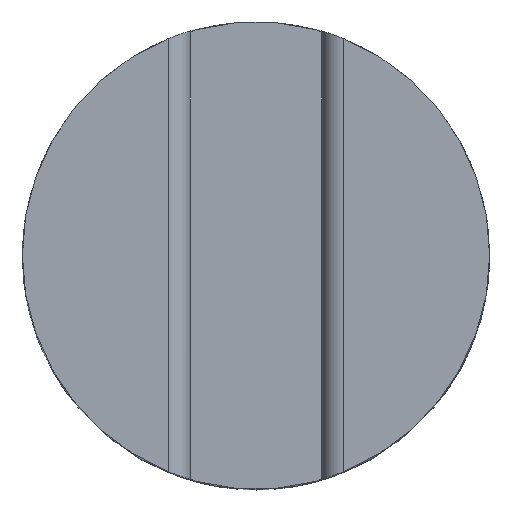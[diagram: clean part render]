
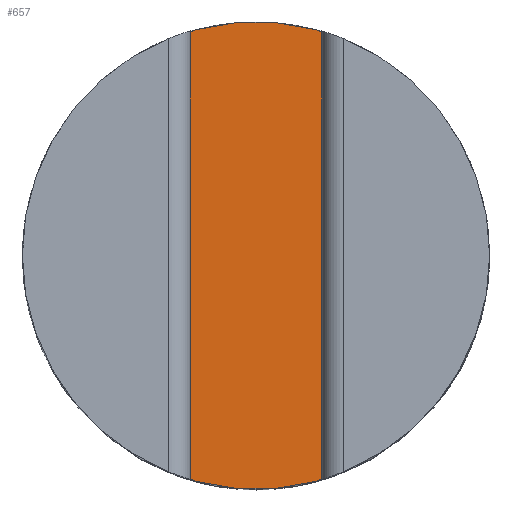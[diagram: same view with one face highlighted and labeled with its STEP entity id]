
A CAD part, top view. The second image highlights one B-rep face of the part: STEP entity #657.
In plain terms, the highlighted planar face has unit normal (0, 0, 1).
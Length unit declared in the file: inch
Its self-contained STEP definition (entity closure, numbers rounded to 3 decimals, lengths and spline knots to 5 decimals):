
#78 = CIRCLE ( 'NONE', #731, 0.1875 ) ;
#96 = AXIS2_PLACEMENT_3D ( 'NONE', #567, #958, #234 ) ;
#120 = EDGE_CURVE ( 'NONE', #795, #809, #183, .T. ) ;
#144 = VERTEX_POINT ( 'NONE', #1003 ) ;
#164 = CARTESIAN_POINT ( 'NONE',  ( -0.07819, 0.88004, -0.1877 ) ) ;
#166 = AXIS2_PLACEMENT_3D ( 'NONE', #947, #1014, #857 ) ;
#183 = CIRCLE ( 'NONE', #96, 0.1875 ) ;
#191 = ORIENTED_EDGE ( 'NONE', *, *, #841, .F. ) ;
#217 = ORIENTED_EDGE ( 'NONE', *, *, #120, .F. ) ;
#234 = DIRECTION ( 'NONE',  ( 1., 0., 0. ) ) ;
#251 = EDGE_CURVE ( 'NONE', #809, #144, #924, .T. ) ;
#258 = FACE_OUTER_BOUND ( 'NONE', #938, .T. ) ;
#261 = DIRECTION ( 'NONE',  ( 1., 0., 0. ) ) ;
#345 = ORIENTED_EDGE ( 'NONE', *, *, #251, .F. ) ;
#370 = VECTOR ( 'NONE', #389, 39.37008 ) ;
#376 = CARTESIAN_POINT ( 'NONE',  ( 0.07819, 0.17042, -0.1877 ) ) ;
#389 = DIRECTION ( 'NONE',  ( 0., -1., 0. ) ) ;
#408 = VERTEX_POINT ( 'NONE', #376 ) ;
#421 = VECTOR ( 'NONE', #989, 39.37008 ) ;
#500 = CARTESIAN_POINT ( 'NONE',  ( 0.07819, 0.88004, -0.1877 ) ) ;
#547 = ORIENTED_EDGE ( 'NONE', *, *, #786, .F. ) ;
#567 = CARTESIAN_POINT ( 'NONE',  ( 0., 0., -0.1877 ) ) ;
#581 = LINE ( 'NONE', #500, #370 ) ;
#598 = CARTESIAN_POINT ( 'NONE',  ( -0.07819, -0.17042, -0.1877 ) ) ;
#657 = ADVANCED_FACE ( 'NONE', ( #258 ), #930, .F. ) ;
#725 = CARTESIAN_POINT ( 'NONE',  ( 0.07819, -0.17042, -0.1877 ) ) ;
#731 = AXIS2_PLACEMENT_3D ( 'NONE', #758, #1009, #261 ) ;
#758 = CARTESIAN_POINT ( 'NONE',  ( 0., 0., -0.1877 ) ) ;
#786 = EDGE_CURVE ( 'NONE', #408, #795, #581, .T. ) ;
#795 = VERTEX_POINT ( 'NONE', #725 ) ;
#809 = VERTEX_POINT ( 'NONE', #598 ) ;
#841 = EDGE_CURVE ( 'NONE', #144, #408, #78, .T. ) ;
#857 = DIRECTION ( 'NONE',  ( -1., 0., 0. ) ) ;
#924 = LINE ( 'NONE', #164, #421 ) ;
#930 = PLANE ( 'NONE',  #166 ) ;
#938 = EDGE_LOOP ( 'NONE', ( #547, #191, #345, #217 ) ) ;
#947 = CARTESIAN_POINT ( 'NONE',  ( 0.67425, 0.88004, -0.1877 ) ) ;
#958 = DIRECTION ( 'NONE',  ( 0., 0., -1. ) ) ;
#989 = DIRECTION ( 'NONE',  ( 0., 1., 0. ) ) ;
#1003 = CARTESIAN_POINT ( 'NONE',  ( -0.07819, 0.17042, -0.1877 ) ) ;
#1009 = DIRECTION ( 'NONE',  ( 0., 0., -1. ) ) ;
#1014 = DIRECTION ( 'NONE',  ( 0., 0., -1. ) ) ;
